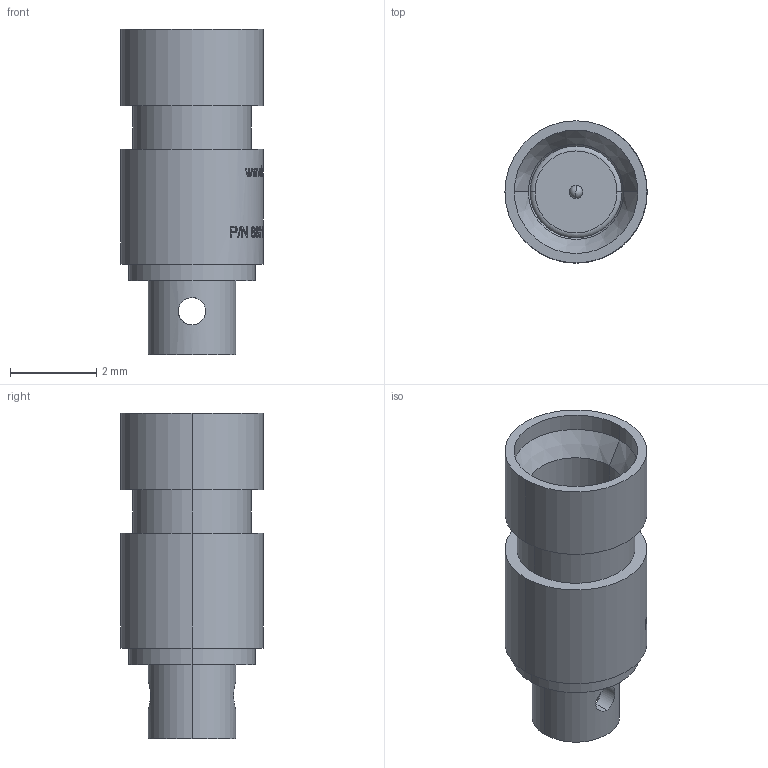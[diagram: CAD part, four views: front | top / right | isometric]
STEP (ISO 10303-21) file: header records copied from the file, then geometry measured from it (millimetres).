
FILE_DESCRIPTION (( 'STEP AP203' ), '1' );
FILE_NAME ('8801111G003-000.STEP', '2023-11-09T21:14:07', ( '' ), ( '' ), 'SwSTEP 2.0', 'SolidWorks 2022', '' );
FILE_SCHEMA (( 'CONFIG_CONTROL_DESIGN' ));
Length unit declared in the file: inch
Products named in the file (1): 8801111G003-000
Bounding box: 3.3 x 3.3 x 7.57 mm (x, y, z)
Volume: 39.9 mm3; surface area: 141.1 mm2
Topology: 1 solids, 2 shells, 490 faces, 1283 edges, 849 vertices
Faces by surface type: bspline 263, plane 129, cylinder 84, cone 8, torus 4, sphere 2
Entity records: 19007 total; most frequent: CARTESIAN_POINT 9117, ORIENTED_EDGE 2562, EDGE_CURVE 1281, DIRECTION 1092, B_SPLINE_CURVE_WITH_KNOTS 849, VERTEX_POINT 849, EDGE_LOOP 550, FACE_OUTER_BOUND 490
